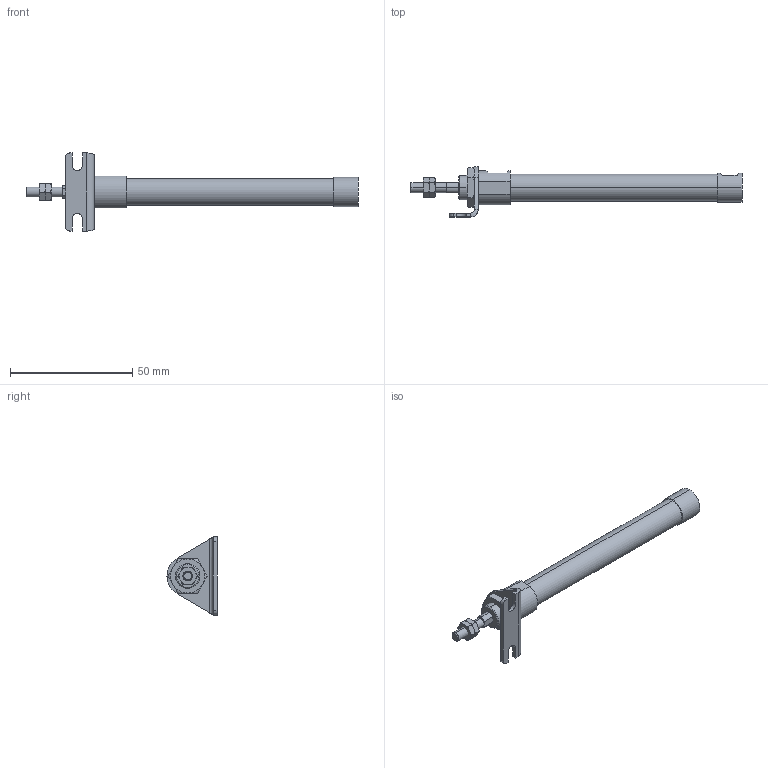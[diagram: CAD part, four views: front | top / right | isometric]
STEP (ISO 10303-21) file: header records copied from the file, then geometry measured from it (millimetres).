
FILE_DESCRIPTION (( 'STEP AP203' ), '1' );
FILE_NAME ('ZGU2-10-60-L.STEP', '2016-03-31T00:55:13', ( '' ), ( '' ), 'SwSTEP 2.0', 'SolidWorks 2014', '' );
FILE_SCHEMA (( 'CONFIG_CONTROL_DESIGN' ));
Length unit declared in the file: millimetre
Products named in the file (5): Z-10-L; ZGU2-10-60; ZGU2-10-60-L
Assembly tree (5 placements, depth 2):
  ZGU2-10-60-L
    ZGU2-10-60
    (unnamed)  x2
    (unnamed)
    Z-10-L
Bounding box: 136 x 20.5 x 32 mm (x, y, z)
Volume: 13176 mm3; surface area: 7073.3 mm2
Topology: 5 solids, 5 shells, 134 faces, 299 edges, 180 vertices
Faces by surface type: plane 56, torus 36, cylinder 32, cone 8, bspline 2
Entity records: 3960 total; most frequent: CARTESIAN_POINT 989, DIRECTION 511, ORIENTED_EDGE 494, EDGE_CURVE 247, AXIS2_PLACEMENT_3D 202, VERTEX_POINT 152, EDGE_LOOP 127, FACE_OUTER_BOUND 112
